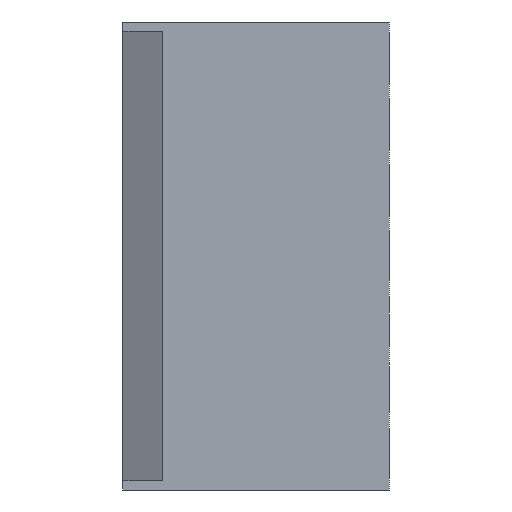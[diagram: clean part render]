
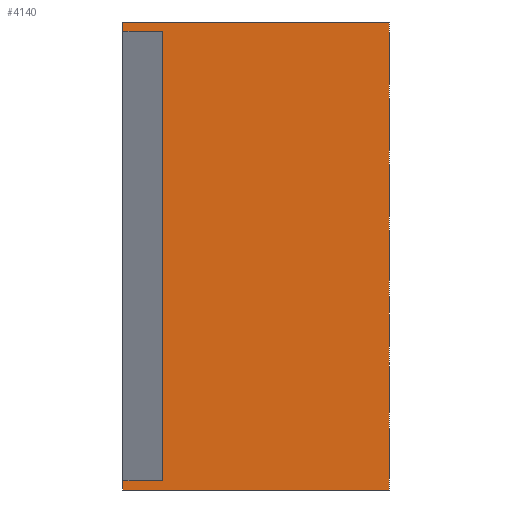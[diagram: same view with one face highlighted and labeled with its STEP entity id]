
A CAD part, left-side view. The second image highlights one B-rep face of the part: STEP entity #4140.
In plain terms, the highlighted planar face has unit normal (-1, 0, 0).
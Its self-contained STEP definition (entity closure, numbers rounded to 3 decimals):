
#24 = ORIENTED_EDGE ( 'NONE', *, *, #4608, .F. ) ;
#27 = VERTEX_POINT ( 'NONE', #2918 ) ;
#64 = VERTEX_POINT ( 'NONE', #5758 ) ;
#75 = ORIENTED_EDGE ( 'NONE', *, *, #2713, .T. ) ;
#105 = EDGE_CURVE ( 'NONE', #3432, #64, #2302, .T. ) ;
#145 = EDGE_CURVE ( 'NONE', #820, #5348, #5219, .T. ) ;
#363 = DIRECTION ( 'NONE',  ( 0., 1., 0. ) ) ;
#403 = CARTESIAN_POINT ( 'NONE',  ( -3.225, 5.6, 19.455 ) ) ;
#820 = VERTEX_POINT ( 'NONE', #2733 ) ;
#1096 = ORIENTED_EDGE ( 'NONE', *, *, #5135, .F. ) ;
#1128 = FACE_OUTER_BOUND ( 'NONE', #4963, .T. ) ;
#1148 = CARTESIAN_POINT ( 'NONE',  ( -3.225, 8., 19.455 ) ) ;
#1317 = CARTESIAN_POINT ( 'NONE',  ( -3.225, 8., -8.12 ) ) ;
#1448 = VERTEX_POINT ( 'NONE', #403 ) ;
#1455 = DIRECTION ( 'NONE',  ( 0., 1., 0. ) ) ;
#1599 = DIRECTION ( 'NONE',  ( 0., 0., -1. ) ) ;
#1635 = VECTOR ( 'NONE', #6068, 1000. ) ;
#1721 = VECTOR ( 'NONE', #4133, 1000. ) ;
#1761 = CARTESIAN_POINT ( 'NONE',  ( -3.225, 8., 20. ) ) ;
#1824 = CARTESIAN_POINT ( 'NONE',  ( -3.225, 5.6, -7.575 ) ) ;
#1950 = LINE ( 'NONE', #3784, #2360 ) ;
#2126 = LINE ( 'NONE', #4062, #4567 ) ;
#2167 = LINE ( 'NONE', #4039, #3760 ) ;
#2176 = DIRECTION ( 'NONE',  ( 0., 1., 0. ) ) ;
#2211 = VECTOR ( 'NONE', #1455, 1000. ) ;
#2287 = CARTESIAN_POINT ( 'NONE',  ( -3.225, 5.6, 0. ) ) ;
#2302 = LINE ( 'NONE', #1824, #2211 ) ;
#2360 = VECTOR ( 'NONE', #4739, 1000. ) ;
#2687 = ORIENTED_EDGE ( 'NONE', *, *, #4493, .T. ) ;
#2713 = EDGE_CURVE ( 'NONE', #27, #4237, #2126, .T. ) ;
#2733 = CARTESIAN_POINT ( 'NONE',  ( -3.225, -8., -8.12 ) ) ;
#2918 = CARTESIAN_POINT ( 'NONE',  ( -3.225, -8., 20. ) ) ;
#2922 = EDGE_CURVE ( 'NONE', #3432, #1448, #4637, .T. ) ;
#3066 = CARTESIAN_POINT ( 'NONE',  ( -3.225, 5.6, 0. ) ) ;
#3126 = DIRECTION ( 'NONE',  ( -1., 0., 0. ) ) ;
#3184 = LINE ( 'NONE', #4134, #1635 ) ;
#3282 = VECTOR ( 'NONE', #6028, 1000. ) ;
#3432 = VERTEX_POINT ( 'NONE', #3775 ) ;
#3559 = ORIENTED_EDGE ( 'NONE', *, *, #145, .F. ) ;
#3760 = VECTOR ( 'NONE', #1599, 1000. ) ;
#3775 = CARTESIAN_POINT ( 'NONE',  ( -3.225, 5.6, -7.575 ) ) ;
#3784 = CARTESIAN_POINT ( 'NONE',  ( -3.225, 8., 11.88 ) ) ;
#3882 = ORIENTED_EDGE ( 'NONE', *, *, #105, .T. ) ;
#4039 = CARTESIAN_POINT ( 'NONE',  ( -3.225, 8., 0. ) ) ;
#4060 = AXIS2_PLACEMENT_3D ( 'NONE', #3066, #3126, #2176 ) ;
#4062 = CARTESIAN_POINT ( 'NONE',  ( -3.225, 8., 20. ) ) ;
#4133 = DIRECTION ( 'NONE',  ( 0., 1., 0. ) ) ;
#4134 = CARTESIAN_POINT ( 'NONE',  ( -3.225, -8., 0. ) ) ;
#4140 = ADVANCED_FACE ( 'NONE', ( #1128 ), #5029, .T. ) ;
#4215 = VECTOR ( 'NONE', #363, 1000. ) ;
#4237 = VERTEX_POINT ( 'NONE', #1761 ) ;
#4493 = EDGE_CURVE ( 'NONE', #64, #5348, #2167, .T. ) ;
#4542 = VERTEX_POINT ( 'NONE', #1148 ) ;
#4567 = VECTOR ( 'NONE', #5456, 1000. ) ;
#4578 = ORIENTED_EDGE ( 'NONE', *, *, #2922, .F. ) ;
#4608 = EDGE_CURVE ( 'NONE', #1448, #4542, #5150, .T. ) ;
#4637 = LINE ( 'NONE', #2287, #3282 ) ;
#4739 = DIRECTION ( 'NONE',  ( 0., 0., 1. ) ) ;
#4963 = EDGE_LOOP ( 'NONE', ( #5804, #75, #1096, #24, #4578, #3882, #2687, #3559 ) ) ;
#5029 = PLANE ( 'NONE',  #4060 ) ;
#5094 = CARTESIAN_POINT ( 'NONE',  ( -3.225, 8., -8.12 ) ) ;
#5116 = CARTESIAN_POINT ( 'NONE',  ( -3.225, 5.6, 19.455 ) ) ;
#5135 = EDGE_CURVE ( 'NONE', #4542, #4237, #1950, .T. ) ;
#5150 = LINE ( 'NONE', #5116, #1721 ) ;
#5219 = LINE ( 'NONE', #1317, #4215 ) ;
#5348 = VERTEX_POINT ( 'NONE', #5094 ) ;
#5456 = DIRECTION ( 'NONE',  ( 0., 1., 0. ) ) ;
#5758 = CARTESIAN_POINT ( 'NONE',  ( -3.225, 8., -7.575 ) ) ;
#5789 = EDGE_CURVE ( 'NONE', #820, #27, #3184, .T. ) ;
#5804 = ORIENTED_EDGE ( 'NONE', *, *, #5789, .T. ) ;
#6028 = DIRECTION ( 'NONE',  ( 0., 0., 1. ) ) ;
#6068 = DIRECTION ( 'NONE',  ( 0., 0., 1. ) ) ;
